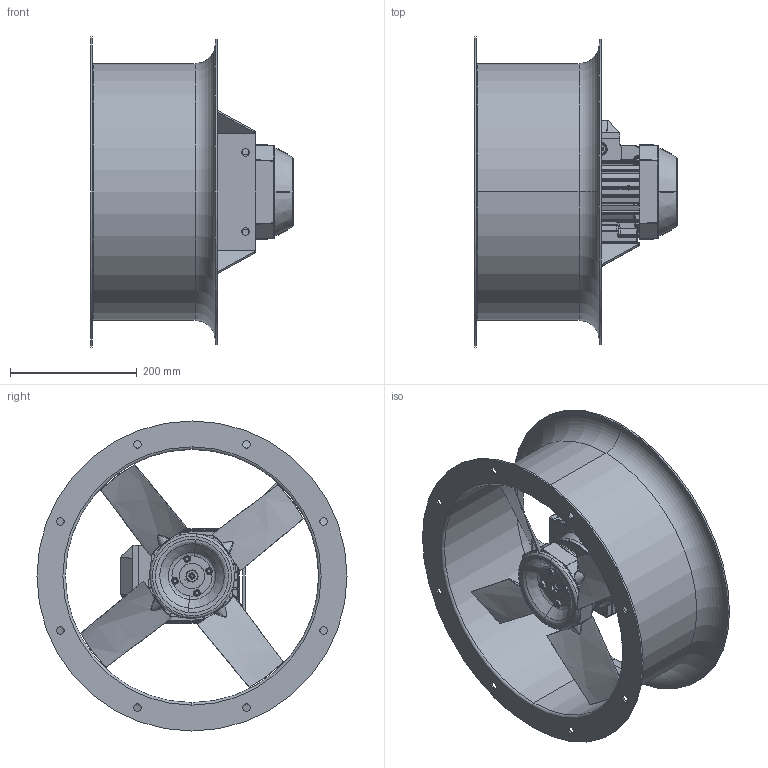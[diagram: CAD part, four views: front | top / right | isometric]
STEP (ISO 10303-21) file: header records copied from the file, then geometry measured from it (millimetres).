
FILE_DESCRIPTION (( 'STEP AP214' ), '1' );
FILE_NAME ('BRV 400_KF_L=200_Mot. 80.STEP', '2020-08-27T12:31:26', ( '' ), ( '' ), 'SwSTEP 2.0', 'SolidWorks 2016', '' );
FILE_SCHEMA (( 'AUTOMOTIVE_DESIGN' ));
Length unit declared in the file: millimetre
Products named in the file (14): Hus BRV 400 _KF_L= 200_mot.80; M8_C1-1 Bolt And Nuts - 395_4-8_30_PPG_3HL_19_6_42_A-121518_3; M8_C1-1 Bolt And Nuts - 395_4-8_30_PPG_3HL_19_6_42_A-121518_4; M8_C1-1 Bolt And Nuts - 395_4-8_30_PPG_3HL_19_6_42_A-121518_2; 10090500070 - 395_4-8_30_PPG_3HL_19_6_42_A-121518; C1-1-Nuts-Y63206000006_395_4-8_30_PPG_3HL_19_6_42_A-121518; 13000103075 - 395_4-8_30_PPG_3HL_19_6_42_A-121518; D2008060001 - 395_4-8_30_PPG_3HL_19_6_42_A-121518; 20080707003 - 395_4-8_30_PPG_3HL_19_6_42_A-121518; C1-1-Bolt-Y62006160008_395_4-8_30_PPG_3HL_19_6_42_A-121518; M8_C1-1 Bolt And Nuts - 395_4-8_30_PPG_3HL_19_6_42_A-121518; 3D M3AA 80; 395_4-8_30_PPG_3HL_19_6_42_A-121518; BRV 400_KF_L=200_Mot. 80
Assembly tree (26 placements, depth 4):
  BRV 400_KF_L=200_Mot. 80
    Hus BRV 400 _KF_L= 200_mot.80
    395_4-8_30_PPG_3HL_19_6_42_A-121518
      20080707003 - 395_4-8_30_PPG_3HL_19_6_42_A-121518
      D2008060001 - 395_4-8_30_PPG_3HL_19_6_42_A-121518
      13000103075 - 395_4-8_30_PPG_3HL_19_6_42_A-121518  x4
      10090500070 - 395_4-8_30_PPG_3HL_19_6_42_A-121518  x5
      M8_C1-1 Bolt And Nuts - 395_4-8_30_PPG_3HL_19_6_42_A-121518
        C1-1-Bolt-Y62006160008_395_4-8_30_PPG_3HL_19_6_42_A-121518
        C1-1-Nuts-Y63206000006_395_4-8_30_PPG_3HL_19_6_42_A-121518
      M8_C1-1 Bolt And Nuts - 395_4-8_30_PPG_3HL_19_6_42_A-121518_2
        C1-1-Bolt-Y62006160008_395_4-8_30_PPG_3HL_19_6_42_A-121518
        C1-1-Nuts-Y63206000006_395_4-8_30_PPG_3HL_19_6_42_A-121518
      M8_C1-1 Bolt And Nuts - 395_4-8_30_PPG_3HL_19_6_42_A-121518_3
        C1-1-Bolt-Y62006160008_395_4-8_30_PPG_3HL_19_6_42_A-121518
        C1-1-Nuts-Y63206000006_395_4-8_30_PPG_3HL_19_6_42_A-121518
      M8_C1-1 Bolt And Nuts - 395_4-8_30_PPG_3HL_19_6_42_A-121518_4
        C1-1-Bolt-Y62006160008_395_4-8_30_PPG_3HL_19_6_42_A-121518
        C1-1-Nuts-Y63206000006_395_4-8_30_PPG_3HL_19_6_42_A-121518
    3D M3AA 80
Bounding box: 320.5 x 490 x 490 mm (x, y, z)
Volume: 5368570.5 mm3; surface area: 1278462.9 mm2
Topology: 23 solids, 23 shells, 4892 faces, 11988 edges, 7030 vertices
Faces by surface type: bspline 2084, cylinder 1176, plane 946, cone 666, torus 20
Entity records: 226417 total; most frequent: CARTESIAN_POINT 138662, ORIENTED_EDGE 21606, DIRECTION 11699, EDGE_CURVE 10803, VERTEX_POINT 6458, B_SPLINE_CURVE_WITH_KNOTS 5464, EDGE_LOOP 4675, ADVANCED_FACE 4491
